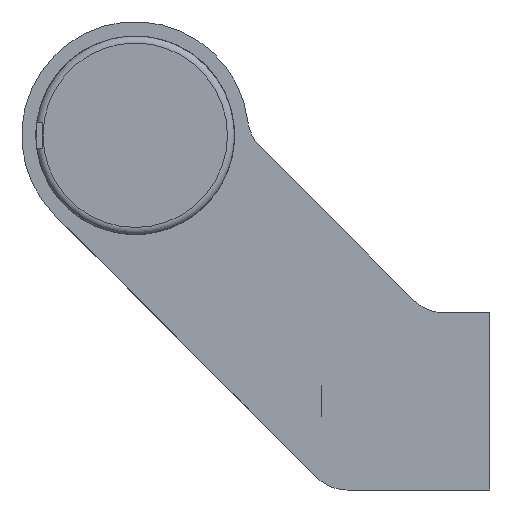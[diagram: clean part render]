
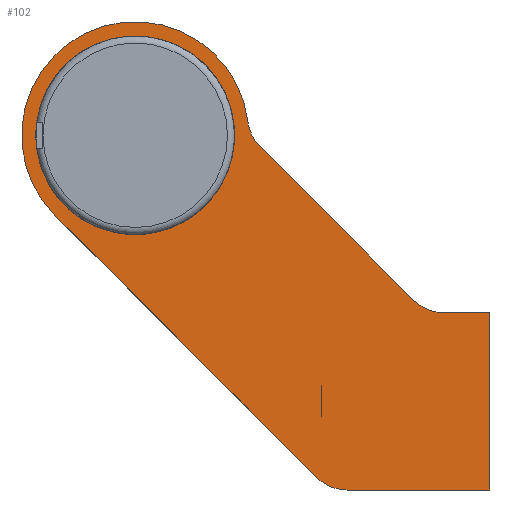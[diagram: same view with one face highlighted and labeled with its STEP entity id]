
A CAD part, left-side view. The second image highlights one B-rep face of the part: STEP entity #102.
In plain terms, the highlighted planar face has unit normal (-1, 0, 0).
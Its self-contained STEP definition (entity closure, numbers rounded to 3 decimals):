
#102 = ADVANCED_FACE( '', ( #191, #192 ), #193, .F. );
#191 = FACE_BOUND( '', #320, .T. );
#192 = FACE_OUTER_BOUND( '', #321, .T. );
#193 = PLANE( '', #322 );
#320 = EDGE_LOOP( '', ( #581 ) );
#321 = EDGE_LOOP( '', ( #582, #583, #584, #585, #586, #587, #588, #589, #590 ) );
#322 = AXIS2_PLACEMENT_3D( '', #591, #592, #593 );
#581 = ORIENTED_EDGE( '', *, *, #776, .T. );
#582 = ORIENTED_EDGE( '', *, *, #794, .F. );
#583 = ORIENTED_EDGE( '', *, *, #820, .F. );
#584 = ORIENTED_EDGE( '', *, *, #817, .F. );
#585 = ORIENTED_EDGE( '', *, *, #814, .F. );
#586 = ORIENTED_EDGE( '', *, *, #810, .F. );
#587 = ORIENTED_EDGE( '', *, *, #807, .T. );
#588 = ORIENTED_EDGE( '', *, *, #804, .F. );
#589 = ORIENTED_EDGE( '', *, *, #801, .T. );
#590 = ORIENTED_EDGE( '', *, *, #798, .F. );
#591 = CARTESIAN_POINT( '', ( -182., 50., 37.5 ) );
#592 = DIRECTION( '', ( 1., 0., 0. ) );
#593 = DIRECTION( '', ( 0., 0., -1. ) );
#776 = EDGE_CURVE( '', #900, #900, #901, .T. );
#794 = EDGE_CURVE( '', #931, #932, #933, .T. );
#798 = EDGE_CURVE( '', #932, #939, #940, .T. );
#801 = EDGE_CURVE( '', #944, #939, #945, .T. );
#804 = EDGE_CURVE( '', #944, #949, #950, .T. );
#807 = EDGE_CURVE( '', #954, #949, #955, .T. );
#810 = EDGE_CURVE( '', #954, #959, #960, .T. );
#814 = EDGE_CURVE( '', #959, #966, #967, .T. );
#817 = EDGE_CURVE( '', #966, #971, #972, .T. );
#820 = EDGE_CURVE( '', #971, #931, #976, .T. );
#900 = VERTEX_POINT( '', #1129 );
#901 = CIRCLE( '', #1130, 14. );
#931 = VERTEX_POINT( '', #1172 );
#932 = VERTEX_POINT( '', #1173 );
#933 = LINE( '', #1174, #1175 );
#939 = VERTEX_POINT( '', #1184 );
#940 = CIRCLE( '', #1185, 16. );
#944 = VERTEX_POINT( '', #1190 );
#945 = CIRCLE( '', #1191, 6. );
#949 = VERTEX_POINT( '', #1196 );
#950 = LINE( '', #1197, #1198 );
#954 = VERTEX_POINT( '', #1204 );
#955 = CIRCLE( '', #1205, 6. );
#959 = VERTEX_POINT( '', #1210 );
#960 = LINE( '', #1211, #1212 );
#966 = VERTEX_POINT( '', #1220 );
#967 = LINE( '', #1221, #1222 );
#971 = VERTEX_POINT( '', #1228 );
#972 = LINE( '', #1229, #1230 );
#976 = CIRCLE( '', #1236, 6. );
#1129 = CARTESIAN_POINT( '', ( -182., 50., 23.5 ) );
#1130 = AXIS2_PLACEMENT_3D( '', #1319, #1320, #1321 );
#1172 = CARTESIAN_POINT( '', ( -182., 24.385, -10.743 ) );
#1173 = CARTESIAN_POINT( '', ( -182., 61.314, 26.186 ) );
#1174 = CARTESIAN_POINT( '', ( -182., 24.385, -10.743 ) );
#1175 = VECTOR( '', #1360, 1000. );
#1184 = CARTESIAN_POINT( '', ( -182., 34.116, 39.424 ) );
#1185 = AXIS2_PLACEMENT_3D( '', #1364, #1365, #1366 );
#1190 = CARTESIAN_POINT( '', ( -182., 32.402, 35.902 ) );
#1191 = AXIS2_PLACEMENT_3D( '', #1371, #1372, #1373 );
#1196 = CARTESIAN_POINT( '', ( -182., 10.757, 14.257 ) );
#1197 = CARTESIAN_POINT( '', ( -182., 32.402, 35.902 ) );
#1198 = VECTOR( '', #1378, 1000. );
#1204 = CARTESIAN_POINT( '', ( -182., 6.515, 12.5 ) );
#1205 = AXIS2_PLACEMENT_3D( '', #1381, #1382, #1383 );
#1210 = CARTESIAN_POINT( '', ( -182., 0., 12.5 ) );
#1211 = CARTESIAN_POINT( '', ( -182., 6.515, 12.5 ) );
#1212 = VECTOR( '', #1388, 1000. );
#1220 = CARTESIAN_POINT( '', ( -182., 0., -12.5 ) );
#1221 = CARTESIAN_POINT( '', ( -182., 0., 12.5 ) );
#1222 = VECTOR( '', #1394, 1000. );
#1228 = CARTESIAN_POINT( '', ( -182., 20.142, -12.5 ) );
#1229 = CARTESIAN_POINT( '', ( -182., 0., -12.5 ) );
#1230 = VECTOR( '', #1397, 1000. );
#1236 = AXIS2_PLACEMENT_3D( '', #1400, #1401, #1402 );
#1319 = CARTESIAN_POINT( '', ( -182., 50., 37.5 ) );
#1320 = DIRECTION( '', ( 1., 0., 0. ) );
#1321 = DIRECTION( '', ( 0., 0., -1. ) );
#1360 = DIRECTION( '', ( 0., 0.707, 0.707 ) );
#1364 = CARTESIAN_POINT( '', ( -182., 50., 37.5 ) );
#1365 = DIRECTION( '', ( 1., 0., 0. ) );
#1366 = DIRECTION( '', ( 0., 0., -1. ) );
#1371 = CARTESIAN_POINT( '', ( -182., 28.16, 40.145 ) );
#1372 = DIRECTION( '', ( 1., 0., 0. ) );
#1373 = DIRECTION( '', ( 0., 0., -1. ) );
#1378 = DIRECTION( '', ( 0., -0.707, -0.707 ) );
#1381 = CARTESIAN_POINT( '', ( -182., 6.515, 18.5 ) );
#1382 = DIRECTION( '', ( 1., 0., 0. ) );
#1383 = DIRECTION( '', ( 0., 0., -1. ) );
#1388 = DIRECTION( '', ( 0., -1., 0. ) );
#1394 = DIRECTION( '', ( 0., 0., -1. ) );
#1397 = DIRECTION( '', ( 0., 1., 0. ) );
#1400 = CARTESIAN_POINT( '', ( -182., 20.142, -6.5 ) );
#1401 = DIRECTION( '', ( 1., 0., 0. ) );
#1402 = DIRECTION( '', ( 0., 0., -1. ) );
